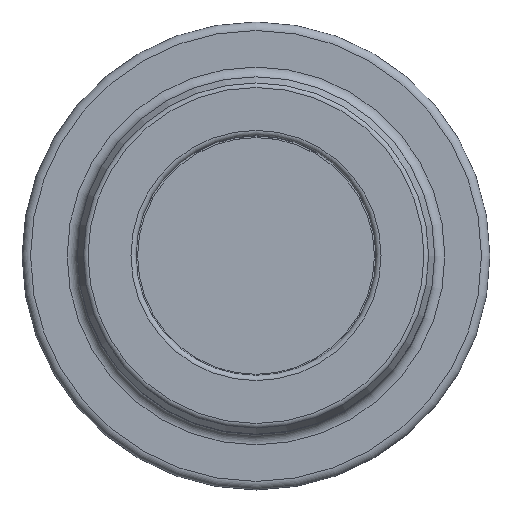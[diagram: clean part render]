
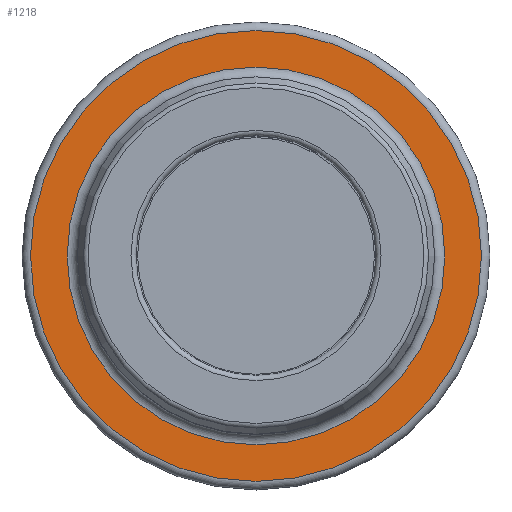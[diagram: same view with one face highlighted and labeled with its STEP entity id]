
A CAD part, top view. The second image highlights one B-rep face of the part: STEP entity #1218.
In plain terms, the highlighted planar face has unit normal (0, 0, 1).
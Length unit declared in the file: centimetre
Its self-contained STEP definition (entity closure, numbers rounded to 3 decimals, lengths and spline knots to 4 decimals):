
#125=PLANE('',#562);
#273=VERTEX_POINT('',#4082);
#275=VERTEX_POINT('',#4087);
#440=DIRECTION('',(0.,0.,1.));
#441=DIRECTION('',(0.,-2.819,0.));
#444=DIRECTION('',(0.,0.,1.));
#445=DIRECTION('',(0.,0.,-1.));
#446=DIRECTION('',(0.,-3.366,0.));
#560=AXIS2_PLACEMENT_3D('',#4081,#440,#441);
#562=AXIS2_PLACEMENT_3D('',#4085,#444,$);
#563=AXIS2_PLACEMENT_3D('',#4086,#445,#446);
#635=CIRCLE('',#560,2.8194);
#637=CIRCLE('',#563,3.3655);
#751=EDGE_CURVE('',#273,#273,#635,.T.);
#753=EDGE_CURVE('',#275,#275,#637,.T.);
#957=ORIENTED_EDGE('',*,*,#753,.F.);
#958=ORIENTED_EDGE('',*,*,#751,.F.);
#1054=EDGE_LOOP('',(#957));
#1055=EDGE_LOOP('',(#958));
#1140=FACE_BOUND('',#1054,.T.);
#1141=FACE_BOUND('',#1055,.T.);
#1218=ADVANCED_FACE('',(#1140,#1141),#125,.T.);
#4081=CARTESIAN_POINT('',(0.,0.,-3.9624));
#4082=CARTESIAN_POINT('',(0.,2.8194,-3.9624));
#4085=CARTESIAN_POINT('',(0.,3.0798,-3.9624));
#4086=CARTESIAN_POINT('',(0.,0.,-3.9624));
#4087=CARTESIAN_POINT('',(0.,3.3655,-3.9624));
